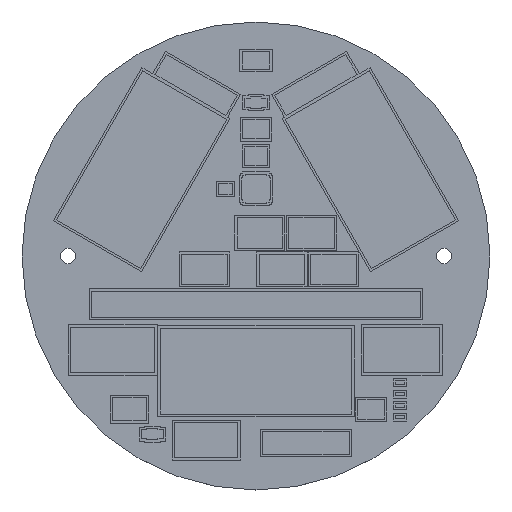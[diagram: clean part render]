
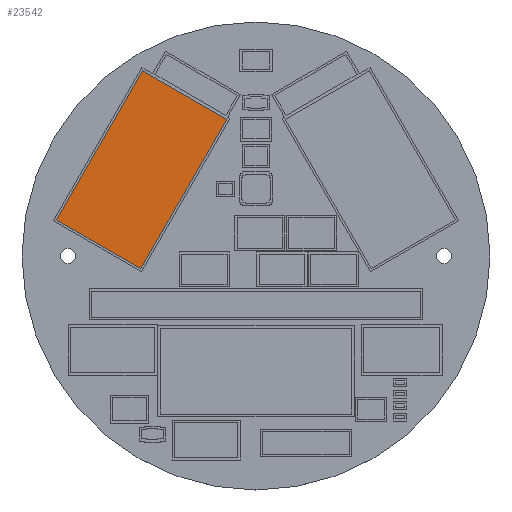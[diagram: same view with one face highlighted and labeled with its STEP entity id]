
A CAD part, top view. The second image highlights one B-rep face of the part: STEP entity #23542.
In plain terms, the highlighted planar face has unit normal (0, 0, 1).
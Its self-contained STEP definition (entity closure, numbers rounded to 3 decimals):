
#14157 = PLANE('',#14158);
#14158 = AXIS2_PLACEMENT_3D('',#14159,#14160,#14161);
#14159 = CARTESIAN_POINT('',(-7.306,36.146,1.2));
#14160 = DIRECTION('',(0.866,-0.5,0.));
#14161 = DIRECTION('',(0.,0.,1.));
#14185 = PLANE('',#14186);
#14186 = AXIS2_PLACEMENT_3D('',#14187,#14188,#14189);
#14187 = CARTESIAN_POINT('',(-29.536,-3.559,1.2));
#14188 = DIRECTION('',(-0.5,-0.866,0.));
#14189 = DIRECTION('',(0.,0.,1.));
#14213 = PLANE('',#14214);
#14214 = AXIS2_PLACEMENT_3D('',#14215,#14216,#14217);
#14215 = CARTESIAN_POINT('',(-52.266,8.872,1.2));
#14216 = DIRECTION('',(-0.866,0.5,0.));
#14217 = DIRECTION('',(0.,0.,1.));
#14239 = PLANE('',#14240);
#14240 = AXIS2_PLACEMENT_3D('',#14241,#14242,#14243);
#14241 = CARTESIAN_POINT('',(-30.036,48.576,1.2));
#14242 = DIRECTION('',(0.5,0.866,0.));
#14243 = DIRECTION('',(0.,0.,1.));
#19907 = VERTEX_POINT('',#19908);
#19908 = CARTESIAN_POINT('',(-7.606,35.626,1.6));
#19927 = EDGE_CURVE('',#19928,#19907,#19930,.T.);
#19928 = VERTEX_POINT('',#19929);
#19929 = CARTESIAN_POINT('',(-30.056,-3.259,1.6));
#19930 = SURFACE_CURVE('',#19931,(#19935,#19941),.PCURVE_S1.);
#19931 = LINE('',#19932,#19933);
#19932 = CARTESIAN_POINT('',(-14.219,24.173,1.6));
#19933 = VECTOR('',#19934,1.);
#19934 = DIRECTION('',(0.5,0.866,-0.));
#19935 = PCURVE('',#14157,#19936);
#19936 = DEFINITIONAL_REPRESENTATION('',(#19937),#19940);
#19937 = B_SPLINE_CURVE_WITH_KNOTS('',1,(#19938,#19939),.UNSPECIFIED.,
  .F.,.F.,(2,2),(-31.675,13.225),
  .PIECEWISE_BEZIER_KNOTS.);
#19938 = CARTESIAN_POINT('',(0.4,45.5));
#19939 = CARTESIAN_POINT('',(0.4,0.6));
#19940 = ( GEOMETRIC_REPRESENTATION_CONTEXT(2) 
PARAMETRIC_REPRESENTATION_CONTEXT() REPRESENTATION_CONTEXT('2D SPACE',''
  ) );
#19941 = PCURVE('',#19942,#19947);
#19942 = PLANE('',#19943);
#19943 = AXIS2_PLACEMENT_3D('',#19944,#19945,#19946);
#19944 = CARTESIAN_POINT('',(0.,0.,1.6)
  );
#19945 = DIRECTION('',(0.,0.,1.));
#19946 = DIRECTION('',(1.,0.,-0.));
#19947 = DEFINITIONAL_REPRESENTATION('',(#19948),#19951);
#19948 = B_SPLINE_CURVE_WITH_KNOTS('',1,(#19949,#19950),.UNSPECIFIED.,
  .F.,.F.,(2,2),(-31.675,13.225),
  .PIECEWISE_BEZIER_KNOTS.);
#19949 = CARTESIAN_POINT('',(-30.056,-3.259));
#19950 = CARTESIAN_POINT('',(-7.606,35.626));
#19951 = ( GEOMETRIC_REPRESENTATION_CONTEXT(2) 
PARAMETRIC_REPRESENTATION_CONTEXT() REPRESENTATION_CONTEXT('2D SPACE',''
  ) );
#19977 = EDGE_CURVE('',#19978,#19928,#19980,.T.);
#19978 = VERTEX_POINT('',#19979);
#19979 = CARTESIAN_POINT('',(-51.966,9.391,1.6));
#19980 = SURFACE_CURVE('',#19981,(#19985,#19991),.PCURVE_S1.);
#19981 = LINE('',#19982,#19983);
#19982 = CARTESIAN_POINT('',(-19.231,-9.509,1.6));
#19983 = VECTOR('',#19984,1.);
#19984 = DIRECTION('',(0.866,-0.5,0.));
#19985 = PCURVE('',#14185,#19986);
#19986 = DEFINITIONAL_REPRESENTATION('',(#19987),#19990);
#19987 = B_SPLINE_CURVE_WITH_KNOTS('',1,(#19988,#19989),.UNSPECIFIED.,
  .F.,.F.,(2,2),(-37.8,-12.5),
  .PIECEWISE_BEZIER_KNOTS.);
#19988 = CARTESIAN_POINT('',(0.4,25.9));
#19989 = CARTESIAN_POINT('',(0.4,0.6));
#19990 = ( GEOMETRIC_REPRESENTATION_CONTEXT(2) 
PARAMETRIC_REPRESENTATION_CONTEXT() REPRESENTATION_CONTEXT('2D SPACE',''
  ) );
#19991 = PCURVE('',#19942,#19992);
#19992 = DEFINITIONAL_REPRESENTATION('',(#19993),#19996);
#19993 = B_SPLINE_CURVE_WITH_KNOTS('',1,(#19994,#19995),.UNSPECIFIED.,
  .F.,.F.,(2,2),(-37.8,-12.5),
  .PIECEWISE_BEZIER_KNOTS.);
#19994 = CARTESIAN_POINT('',(-51.966,9.391));
#19995 = CARTESIAN_POINT('',(-30.056,-3.259));
#19996 = ( GEOMETRIC_REPRESENTATION_CONTEXT(2) 
PARAMETRIC_REPRESENTATION_CONTEXT() REPRESENTATION_CONTEXT('2D SPACE',''
  ) );
#20022 = EDGE_CURVE('',#20023,#19978,#20025,.T.);
#20023 = VERTEX_POINT('',#20024);
#20024 = CARTESIAN_POINT('',(-29.516,48.276,1.6));
#20025 = SURFACE_CURVE('',#20026,(#20030,#20036),.PCURVE_S1.);
#20026 = LINE('',#20027,#20028);
#20027 = CARTESIAN_POINT('',(-47.654,16.861,1.6));
#20028 = VECTOR('',#20029,1.);
#20029 = DIRECTION('',(-0.5,-0.866,0.));
#20030 = PCURVE('',#14213,#20031);
#20031 = DEFINITIONAL_REPRESENTATION('',(#20032),#20035);
#20032 = B_SPLINE_CURVE_WITH_KNOTS('',1,(#20033,#20034),.UNSPECIFIED.,
  .F.,.F.,(2,2),(-36.275,8.625),
  .PIECEWISE_BEZIER_KNOTS.);
#20033 = CARTESIAN_POINT('',(0.4,45.5));
#20034 = CARTESIAN_POINT('',(0.4,0.6));
#20035 = ( GEOMETRIC_REPRESENTATION_CONTEXT(2) 
PARAMETRIC_REPRESENTATION_CONTEXT() REPRESENTATION_CONTEXT('2D SPACE',''
  ) );
#20036 = PCURVE('',#19942,#20037);
#20037 = DEFINITIONAL_REPRESENTATION('',(#20038),#20041);
#20038 = B_SPLINE_CURVE_WITH_KNOTS('',1,(#20039,#20040),.UNSPECIFIED.,
  .F.,.F.,(2,2),(-36.275,8.625),
  .PIECEWISE_BEZIER_KNOTS.);
#20039 = CARTESIAN_POINT('',(-29.516,48.276));
#20040 = CARTESIAN_POINT('',(-51.966,9.391));
#20041 = ( GEOMETRIC_REPRESENTATION_CONTEXT(2) 
PARAMETRIC_REPRESENTATION_CONTEXT() REPRESENTATION_CONTEXT('2D SPACE',''
  ) );
#20067 = EDGE_CURVE('',#19907,#20023,#20068,.T.);
#20068 = SURFACE_CURVE('',#20069,(#20073,#20079),.PCURVE_S1.);
#20069 = LINE('',#20070,#20071);
#20070 = CARTESIAN_POINT('',(-8.256,36.001,1.6));
#20071 = VECTOR('',#20072,1.);
#20072 = DIRECTION('',(-0.866,0.5,0.));
#20073 = PCURVE('',#14239,#20074);
#20074 = DEFINITIONAL_REPRESENTATION('',(#20075),#20078);
#20075 = B_SPLINE_CURVE_WITH_KNOTS('',1,(#20076,#20077),.UNSPECIFIED.,
  .F.,.F.,(2,2),(-0.75,24.55),
  .PIECEWISE_BEZIER_KNOTS.);
#20076 = CARTESIAN_POINT('',(0.4,25.9));
#20077 = CARTESIAN_POINT('',(0.4,0.6));
#20078 = ( GEOMETRIC_REPRESENTATION_CONTEXT(2) 
PARAMETRIC_REPRESENTATION_CONTEXT() REPRESENTATION_CONTEXT('2D SPACE',''
  ) );
#20079 = PCURVE('',#19942,#20080);
#20080 = DEFINITIONAL_REPRESENTATION('',(#20081),#20084);
#20081 = B_SPLINE_CURVE_WITH_KNOTS('',1,(#20082,#20083),.UNSPECIFIED.,
  .F.,.F.,(2,2),(-0.75,24.55),
  .PIECEWISE_BEZIER_KNOTS.);
#20082 = CARTESIAN_POINT('',(-7.606,35.626));
#20083 = CARTESIAN_POINT('',(-29.516,48.276));
#20084 = ( GEOMETRIC_REPRESENTATION_CONTEXT(2) 
PARAMETRIC_REPRESENTATION_CONTEXT() REPRESENTATION_CONTEXT('2D SPACE',''
  ) );
#23542 = ADVANCED_FACE('',(#23543),#19942,.T.);
#23543 = FACE_BOUND('',#23544,.T.);
#23544 = EDGE_LOOP('',(#23545,#23546,#23547,#23548));
#23545 = ORIENTED_EDGE('',*,*,#19927,.T.);
#23546 = ORIENTED_EDGE('',*,*,#20067,.T.);
#23547 = ORIENTED_EDGE('',*,*,#20022,.T.);
#23548 = ORIENTED_EDGE('',*,*,#19977,.T.);
